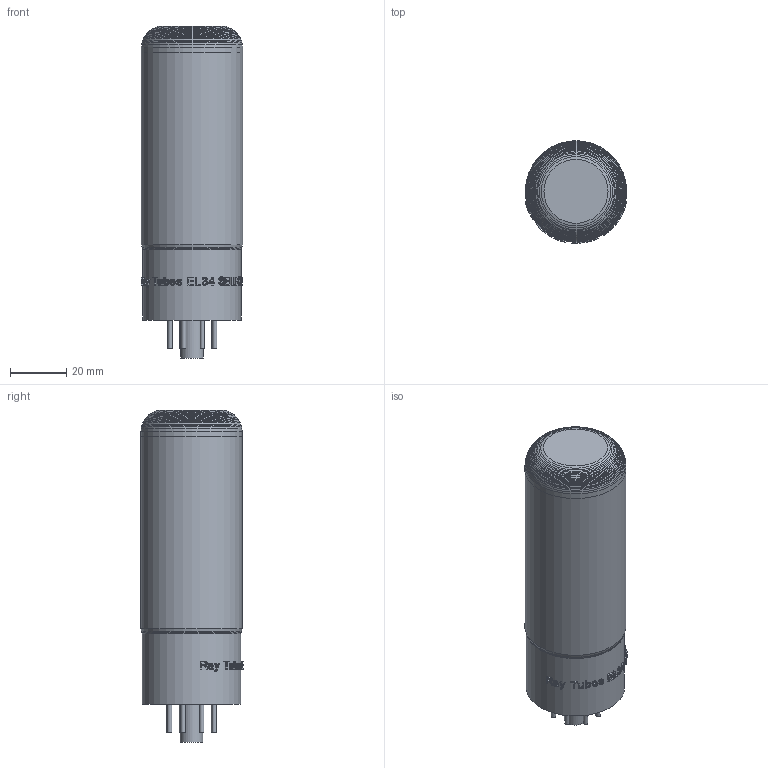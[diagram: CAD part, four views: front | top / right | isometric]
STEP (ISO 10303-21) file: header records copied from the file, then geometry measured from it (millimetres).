
FILE_DESCRIPTION(('Open CASCADE Model'),'2;1');
FILE_NAME('Open CASCADE Shape Model','2026-06-14T10:45:54',('Author'),( 'Open CASCADE'),'Open CASCADE STEP processor 7.8','Open CASCADE 7.8' ,'Unknown');
FILE_SCHEMA(('AUTOMOTIVE_DESIGN { 1 0 10303 214 1 1 1 1 }'));
Length unit declared in the file: millimetre
Products named in the file (6): Ray_Tubes_EL34_SELECT_from_DXF_mm; Socket_layer; Socket_key_layer; Glas_layer; Pin_layer; Model_label_layer
Assembly tree (5 placements, depth 2):
  Ray_Tubes_EL34_SELECT_from_DXF_mm
    Socket_layer
    Socket_key_layer
    Glas_layer
    Pin_layer
    Model_label_layer
Bounding box: 36.08 x 36.34 x 118 mm (x, y, z)
Volume: 104437.5 mm3; surface area: 16317.1 mm2
Topology: 29 solids, 29 shells, 437 faces, 1109 edges, 730 vertices
Faces by surface type: extrusion 215, plane 183, cone 28, cylinder 11
Full cylindrical faces by diameter (mm): 1.6 x8, 8 x1, 35 x1, 36 x1
Entity records: 13597 total; most frequent: CARTESIAN_POINT 3572, ORIENTED_EDGE 2218, DIRECTION 1400, EDGE_CURVE 1109, VECTOR 844, VERTEX_POINT 730, B_SPLINE_CURVE_WITH_KNOTS 645, LINE 629
